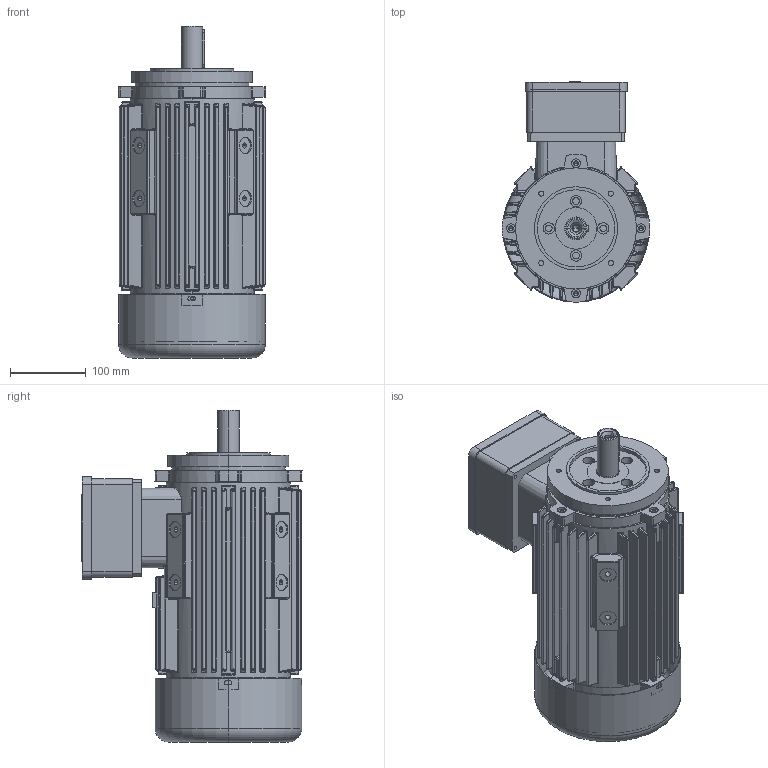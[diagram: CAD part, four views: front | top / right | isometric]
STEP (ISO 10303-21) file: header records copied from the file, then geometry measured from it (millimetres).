
FILE_DESCRIPTION (( 'STEP AP214' ), '1' );
FILE_NAME ('7AT 100 Exde.STEP', '2018-05-11T09:21:38', ( '' ), ( '' ), 'SwSTEP 2.0', 'SolidWorks 2017', '' );
FILE_SCHEMA (( 'AUTOMOTIVE_DESIGN' ));
Length unit declared in the file: millimetre
Products named in the file (1): 7AT 100 Exde
Bounding box: 194.92 x 291.22 x 439 mm (x, y, z)
Volume: 3913727.7 mm3; surface area: 1095437.5 mm2
Topology: 12 solids, 12 shells, 2497 faces, 6065 edges, 3534 vertices
Faces by surface type: cylinder 953, bspline 736, plane 521, cone 118, torus 113, sphere 56
Entity records: 120429 total; most frequent: CARTESIAN_POINT 45411, ORIENTED_EDGE 11730, DIRECTION 9771, EDGE_CURVE 5865, AXIS2_PLACEMENT_3D 3905, VERTEX_POINT 3534, EDGE_LOOP 2733, FACE_OUTER_BOUND 2497
